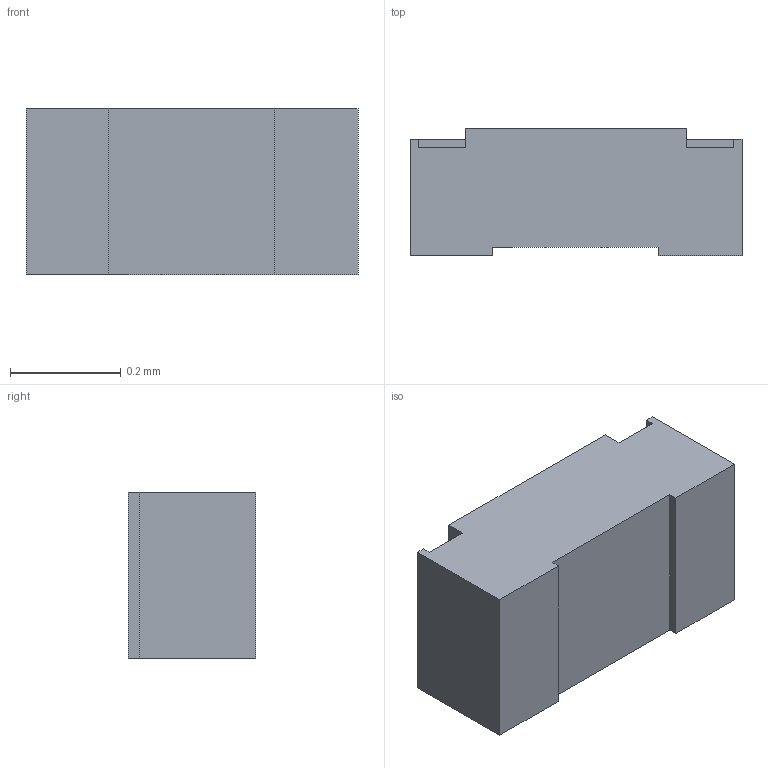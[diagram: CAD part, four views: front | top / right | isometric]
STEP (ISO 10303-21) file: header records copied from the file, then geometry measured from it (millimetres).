
FILE_DESCRIPTION(/* description */ (''),/* implementation_level */ '2;1');
FILE_NAME(/* name */ 'CRCW0201-AT.stp',/* time_stamp */ '2025-09-12T13:19:59+02:00',/* author */ ('rpetersen'),/* organization */ (''),/* preprocessor_version */ 'ST-DEVELOPER v20',/* originating_system */ 'Autodesk Inventor 2025',/* authorisation */ '');
FILE_SCHEMA (('AUTOMOTIVE_DESIGN { 1 0 10303 214 3 1 1 }'));
Length unit declared in the file: millimetre
Products named in the file (1): 4211
Bounding box: 0.6 x 0.23 x 0.3 mm (x, y, z)
Volume: 0 mm3; surface area: 0.8 mm2
Topology: 1 solids, 1 shells, 26 faces, 72 edges, 48 vertices
Faces by surface type: plane 26
Entity records: 859 total; most frequent: CARTESIAN_POINT 147, ORIENTED_EDGE 144, DIRECTION 126, LINE 72, VECTOR 72, EDGE_CURVE 72, VERTEX_POINT 48, AXIS2_PLACEMENT_3D 27
